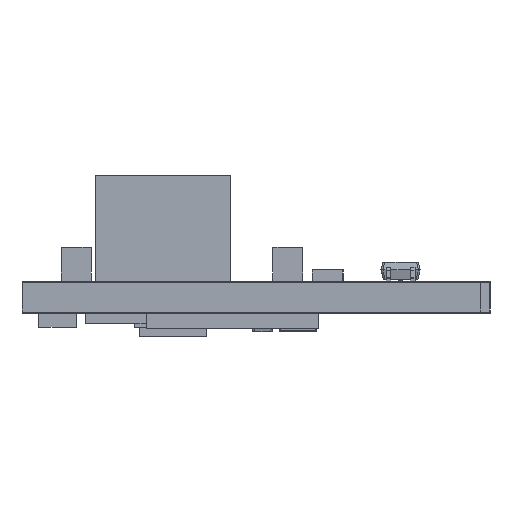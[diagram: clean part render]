
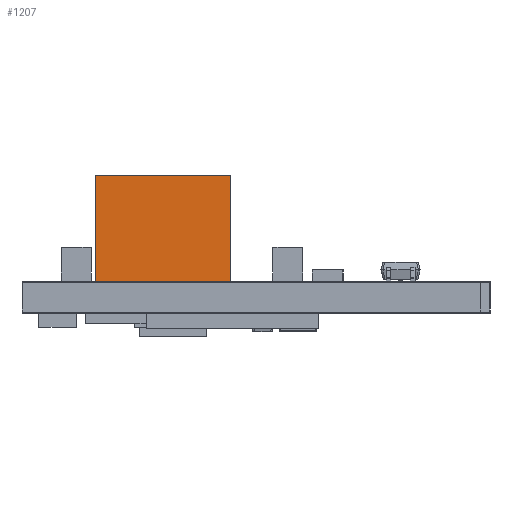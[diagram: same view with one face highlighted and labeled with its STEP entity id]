
A CAD part, left-side view. The second image highlights one B-rep face of the part: STEP entity #1207.
In plain terms, the highlighted planar face has unit normal (-1, 0, 0).
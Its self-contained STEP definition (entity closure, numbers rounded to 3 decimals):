
#1077=DIRECTION('',(0.,-1.,0.));
#1078=VECTOR('',#1077,7.24);
#1079=CARTESIAN_POINT('',(-6.16,3.62,0.));
#1080=LINE('',#1079,#1078);
#1105=DIRECTION('',(0.,0.,1.));
#1106=VECTOR('',#1105,5.72);
#1107=CARTESIAN_POINT('',(-6.16,3.62,0.));
#1108=LINE('',#1107,#1106);
#1126=DIRECTION('',(0.,0.,1.));
#1127=VECTOR('',#1126,5.72);
#1128=CARTESIAN_POINT('',(-6.16,-3.62,0.));
#1129=LINE('',#1128,#1127);
#1133=DIRECTION('',(0.,-1.,0.));
#1134=VECTOR('',#1133,7.24);
#1135=CARTESIAN_POINT('',(-6.16,3.62,5.72));
#1136=LINE('',#1135,#1134);
#1161=CARTESIAN_POINT('',(-6.16,3.62,0.));
#1162=CARTESIAN_POINT('',(-6.16,-3.62,0.));
#1163=VERTEX_POINT('',#1161);
#1164=VERTEX_POINT('',#1162);
#1169=CARTESIAN_POINT('',(-6.16,3.62,5.72));
#1170=CARTESIAN_POINT('',(-6.16,-3.62,5.72));
#1171=VERTEX_POINT('',#1169);
#1172=VERTEX_POINT('',#1170);
#1193=CARTESIAN_POINT('',(-6.16,3.62,0.));
#1194=DIRECTION('',(-1.,0.,0.));
#1195=DIRECTION('',(0.,-1.,0.));
#1196=AXIS2_PLACEMENT_3D('',#1193,#1194,#1195);
#1197=PLANE('',#1196);
#1198=ORIENTED_EDGE('',*,*,#1182,.F.);
#1200=ORIENTED_EDGE('',*,*,#1199,.T.);
#1202=ORIENTED_EDGE('',*,*,#1201,.T.);
#1204=ORIENTED_EDGE('',*,*,#1203,.F.);
#1205=EDGE_LOOP('',(#1198,#1200,#1202,#1204));
#1206=FACE_OUTER_BOUND('',#1205,.F.);
#1207=ADVANCED_FACE('',(#1206),#1197,.T.);
#1182=EDGE_CURVE('',#1163,#1164,#1080,.T.);
#1199=EDGE_CURVE('',#1163,#1171,#1108,.T.);
#1201=EDGE_CURVE('',#1171,#1172,#1136,.T.);
#1203=EDGE_CURVE('',#1164,#1172,#1129,.T.);
